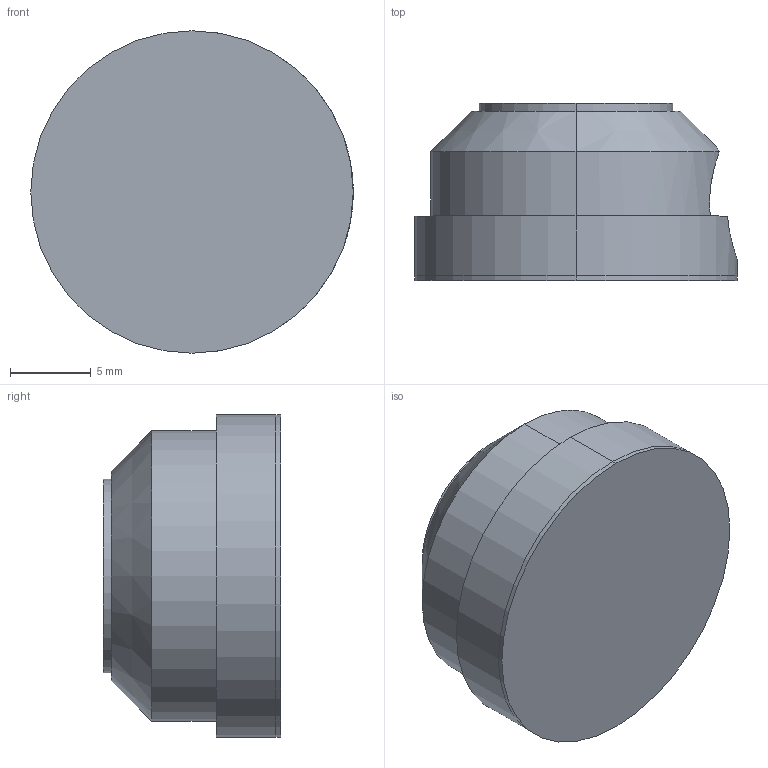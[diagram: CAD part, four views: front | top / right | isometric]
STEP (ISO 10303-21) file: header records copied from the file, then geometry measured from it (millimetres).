
FILE_DESCRIPTION (( 'STEP AP203' ), '1' );
FILE_NAME ('EZ-0053-020 Standardlager Bestell-Nr. 0005481.STEP', '2021-09-16T15:23:06', ( '' ), ( '' ), 'SwSTEP 2.0', 'SolidWorks 2021', '' );
FILE_SCHEMA (( 'CONFIG_CONTROL_DESIGN' ));
Length unit declared in the file: millimetre
Products named in the file (1): EZ-0053-020 Standardlager  Bestell-Nr. 0005481
Bounding box: 20 x 11 x 20 mm (x, y, z)
Volume: 2623.3 mm3; surface area: 2175.1 mm2
Topology: 4 solids, 4 shells, 79 faces, 179 edges, 112 vertices
Faces by surface type: cylinder 33, plane 23, cone 13, torus 8, sphere 2
Entity records: 2379 total; most frequent: CARTESIAN_POINT 464, DIRECTION 427, ORIENTED_EDGE 354, AXIS2_PLACEMENT_3D 181, EDGE_CURVE 177, VERTEX_POINT 112, CIRCLE 101, EDGE_LOOP 89
